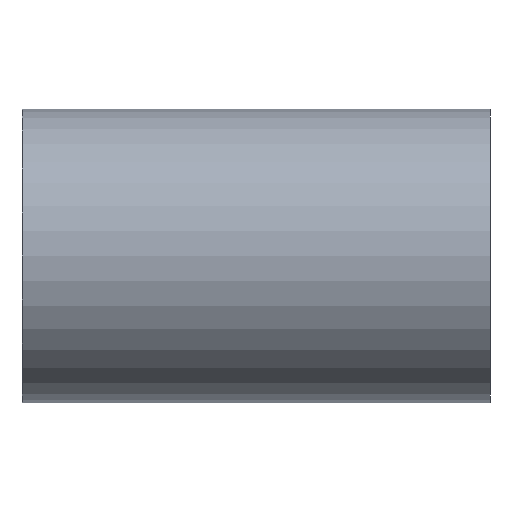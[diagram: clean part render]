
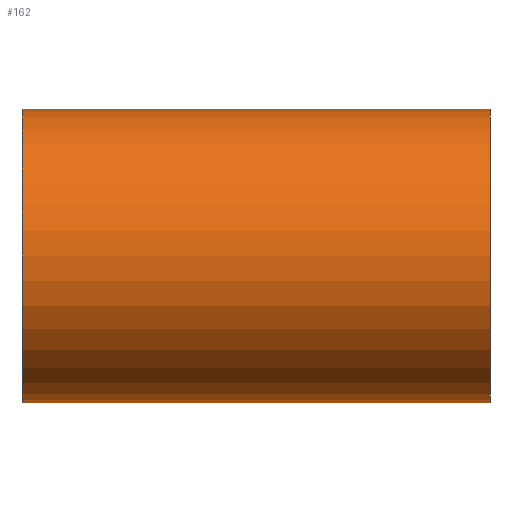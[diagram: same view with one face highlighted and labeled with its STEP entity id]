
A CAD part, front view. The second image highlights one B-rep face of the part: STEP entity #162.
In plain terms, the highlighted cylindrical face has radius 395 mm (diameter 790 mm), a partial arc.
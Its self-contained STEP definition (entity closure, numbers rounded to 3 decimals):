
#162=ADVANCED_FACE('',(#326),#327,.T.);
#326=FACE_OUTER_BOUND('',#509,.T.);
#327=CYLINDRICAL_SURFACE('',#510,395.0);
#509=EDGE_LOOP('',(#927,#928,#929,#930));
#510=AXIS2_PLACEMENT_3D('',#931,#932,#933);
#927=ORIENTED_EDGE('',*,*,#999,.T.);
#928=ORIENTED_EDGE('',*,*,#1173,.F.);
#929=ORIENTED_EDGE('',*,*,#1001,.T.);
#930=ORIENTED_EDGE('',*,*,#1174,.F.);
#931=CARTESIAN_POINT('',(0.0,0.0,0.0));
#932=DIRECTION('',(1.0,0.0,0.0));
#933=DIRECTION('',(0.0,0.0,-1.0));
#999=EDGE_CURVE('',#1178,#1179,#1180,.T.);
#1001=EDGE_CURVE('',#1183,#1181,#1184,.T.);
#1173=EDGE_CURVE('',#1183,#1179,#1439,.T.);
#1174=EDGE_CURVE('',#1178,#1181,#1440,.T.);
#1178=VERTEX_POINT('',#1444);
#1179=VERTEX_POINT('',#1445);
#1180=LINE('',#1446,#1447);
#1181=VERTEX_POINT('',#1448);
#1183=VERTEX_POINT('',#1450);
#1184=LINE('',#1451,#1452);
#1439=CIRCLE('',#1759,395.0);
#1440=CIRCLE('',#1760,395.0);
#1444=CARTESIAN_POINT('',(-630.0,0.0,-395.0));
#1445=CARTESIAN_POINT('',(630.0,0.0,-395.0));
#1446=CARTESIAN_POINT('',(0.0,0.,-395.0));
#1447=VECTOR('',#1763,1.0);
#1448=CARTESIAN_POINT('',(-630.0,0.,395.0));
#1450=CARTESIAN_POINT('',(630.0,0.,395.0));
#1451=CARTESIAN_POINT('',(0.0,0.,395.0));
#1452=VECTOR('',#1767,1.0);
#1759=AXIS2_PLACEMENT_3D('',#2042,#2043,#2044);
#1760=AXIS2_PLACEMENT_3D('',#2045,#2046,#2047);
#1763=DIRECTION('',(1.0,0.0,0.0));
#1767=DIRECTION('',(-1.0,-0.0,-0.0));
#2042=CARTESIAN_POINT('',(630.0,0.0,0.0));
#2043=DIRECTION('',(1.0,0.0,0.0));
#2044=DIRECTION('',(0.0,0.0,-1.0));
#2045=CARTESIAN_POINT('',(-630.0,0.0,0.0));
#2046=DIRECTION('',(-1.0,0.0,0.0));
#2047=DIRECTION('',(0.0,0.0,-1.0));
